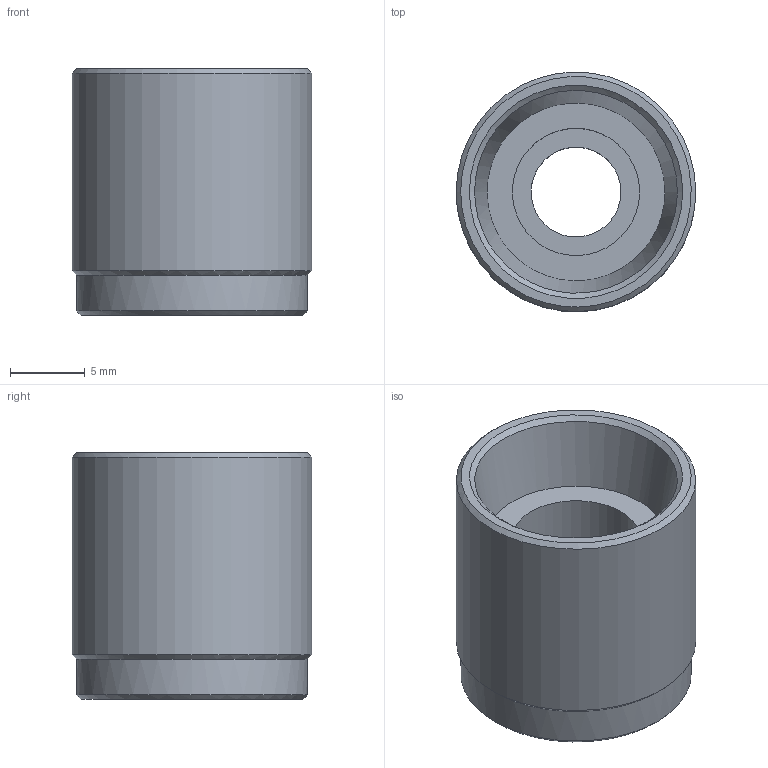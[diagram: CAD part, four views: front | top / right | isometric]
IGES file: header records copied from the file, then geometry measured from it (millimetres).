
Start section: C
Global section: file name: CN016CFF02.igs; native system: By Siemens PLM Incorporated; preprocessor: XPlus GENERIC/IGES 18.0.17; author: Author; organization: Title; date: 20240719.103040; units: millimetre
Bounding box: 16 x 16 x 16.5 mm (x, y, z)
Volume: 2174.1 mm3; surface area: 1570.9 mm2
Topology: 1 solids, 1 shells, 253 faces, 665 edges, 442 vertices
Faces by surface type: bspline 253
